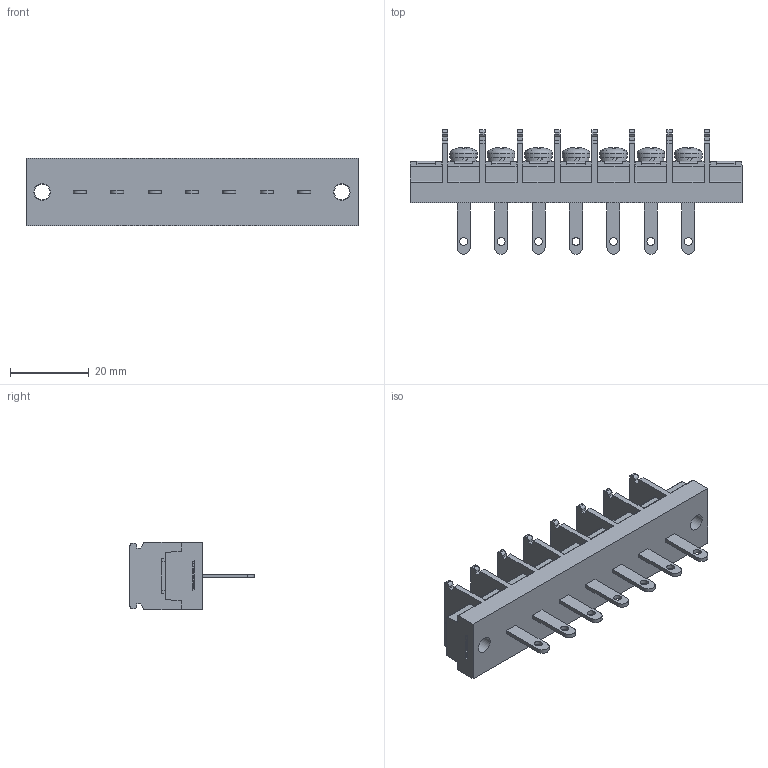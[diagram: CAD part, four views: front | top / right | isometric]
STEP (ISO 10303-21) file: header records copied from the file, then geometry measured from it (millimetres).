
FILE_DESCRIPTION(/* description */ ('Alibre Inc.'),/* implementation_level */ '2;1');
FILE_NAME(/* name */ 'export-EF5EE777-68B0-4299-8FE1-AF287DF28159',/* time_stamp */ '2020-11-07T15:38:27+09:00',/* author */ (''),/* organization */ (''),/* preprocessor_version */ 'ST-DEVELOPER v17',/* originating_system */ 'Alibre',/* authorisation */ '');
FILE_SCHEMA (('CONFIG_CONTROL_DESIGN'));
Length unit declared in the file: millimetre
Bounding box: 84.2 x 31.5 x 17 mm (x, y, z)
Volume: 14990.7 mm3; surface area: 10189.2 mm2
Topology: 1 solids, 8 shells, 1042 faces, 2857 edges, 1896 vertices
Faces by surface type: plane 750, cylinder 132, bspline 104, cone 35, torus 14, sphere 7
Full cylindrical faces by diameter (mm): 2 x7, 4 x16, 4.2 x2, 6.5 x7, 7 x7
Entity records: 31555 total; most frequent: CARTESIAN_POINT 6743, ORIENTED_EDGE 5534, DIRECTION 4039, EDGE_CURVE 2767, VECTOR 1952, LINE 1952, VERTEX_POINT 1859, AXIS2_PLACEMENT_3D 1404
